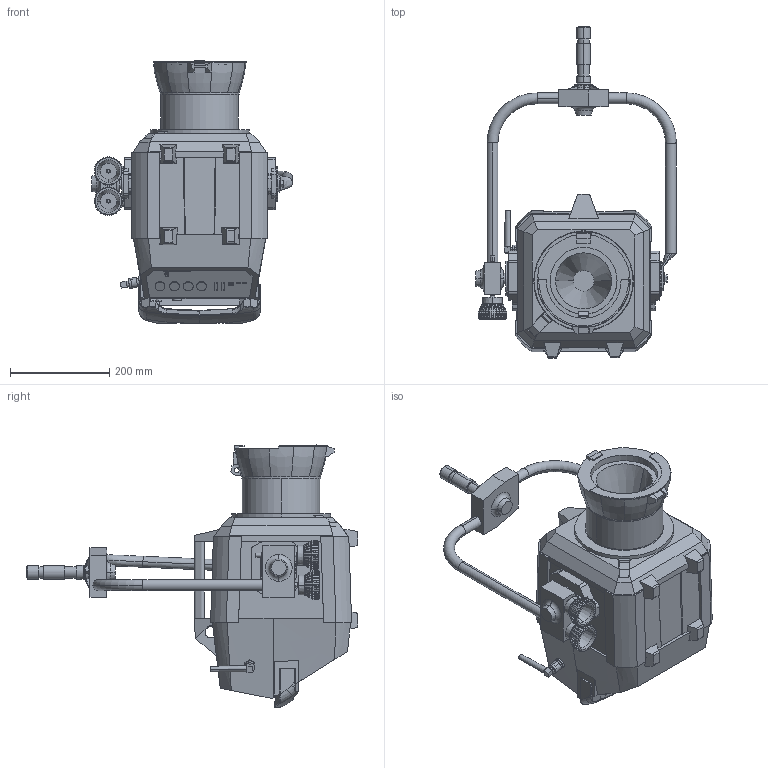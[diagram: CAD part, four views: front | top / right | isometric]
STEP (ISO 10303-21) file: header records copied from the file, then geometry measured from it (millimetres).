
FILE_DESCRIPTION (( 'STEP AP214' ), '1' );
FILE_NAME ('Orbiter OF 30°.STEP', '2020-04-30T12:17:27', ( '' ), ( '' ), 'SwSTEP 2.0', 'SolidWorks 2018', '' );
FILE_SCHEMA (( 'AUTOMOTIVE_DESIGN' ));
Length unit declared in the file: millimetre
Products named in the file (7): Orbiter OF 30°; Orbiter_import_part; PO-Buegel; OF30_update_Druckknopf; Control_Panel_import_part; Aufhaengezapfen; Antenne_import_part
Assembly tree (6 placements, depth 2):
  Orbiter OF 30°
    Orbiter_import_part
    Control_Panel_import_part
    Antenne_import_part
    PO-Buegel
    Aufhaengezapfen
    OF30_update_Druckknopf
Bounding box: 405.2 x 669.95 x 531.23 mm (x, y, z)
Volume: 19048351.4 mm3; surface area: 1388499.1 mm2
Topology: 8 solids, 15 shells, 1705 faces, 4452 edges, 2854 vertices
Faces by surface type: plane 948, bspline 314, cylinder 300, cone 115, torus 26, sphere 2
Entity records: 80103 total; most frequent: CARTESIAN_POINT 21867, ORIENTED_EDGE 8892, DIRECTION 7030, EDGE_CURVE 4446, VERTEX_POINT 2852, VECTOR 2410, LINE 2410, AXIS2_PLACEMENT_3D 2310
